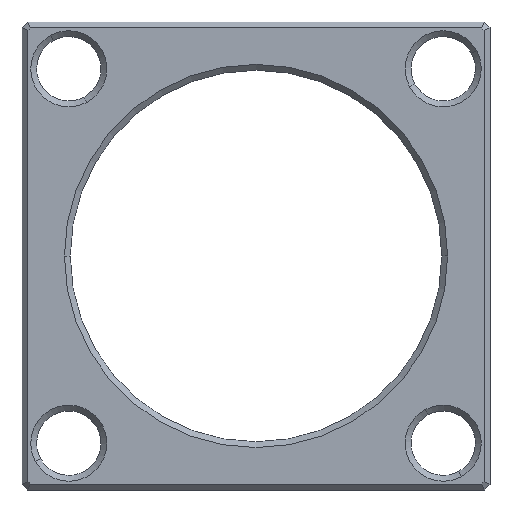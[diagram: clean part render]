
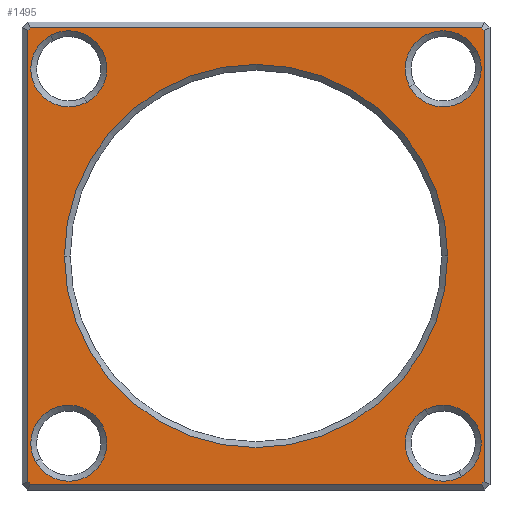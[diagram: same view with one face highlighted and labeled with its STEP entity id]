
A CAD part, front view. The second image highlights one B-rep face of the part: STEP entity #1495.
In plain terms, the highlighted planar face has unit normal (0, -1, 0).
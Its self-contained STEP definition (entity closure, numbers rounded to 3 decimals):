
#838=CARTESIAN_POINT('Vertex',(-38.586,0.,-39.)) ;
#841=CARTESIAN_POINT('Line Origine',(-38.793,0.,-38.793)) ;
#845=CARTESIAN_POINT('Vertex',(-39.,0.,-38.586)) ;
#864=CARTESIAN_POINT('Line Origine',(-39.,0.,0.)) ;
#868=CARTESIAN_POINT('Vertex',(-39.,0.,38.586)) ;
#887=CARTESIAN_POINT('Line Origine',(-38.793,0.,38.793)) ;
#891=CARTESIAN_POINT('Vertex',(-38.586,0.,39.)) ;
#910=CARTESIAN_POINT('Line Origine',(0.,0.,39.)) ;
#914=CARTESIAN_POINT('Vertex',(38.586,0.,39.)) ;
#933=CARTESIAN_POINT('Line Origine',(38.793,0.,38.793)) ;
#937=CARTESIAN_POINT('Vertex',(39.,0.,38.586)) ;
#956=CARTESIAN_POINT('Line Origine',(39.,0.,0.)) ;
#960=CARTESIAN_POINT('Vertex',(39.,0.,-38.586)) ;
#979=CARTESIAN_POINT('Line Origine',(38.793,0.,-38.793)) ;
#983=CARTESIAN_POINT('Vertex',(38.586,0.,-39.)) ;
#1002=CARTESIAN_POINT('Line Origine',(0.,0.,-39.)) ;
#1071=CARTESIAN_POINT('Vertex',(26.296,0.,28.884)) ;
#1078=CARTESIAN_POINT('Vertex',(37.704,0.,35.116)) ;
#1081=CARTESIAN_POINT('Axis2P3D Location',(32.,0.,32.)) ;
#1098=CARTESIAN_POINT('Axis2P3D Location',(32.,0.,32.)) ;
#1167=CARTESIAN_POINT('Vertex',(32.75,0.,0.)) ;
#1174=CARTESIAN_POINT('Vertex',(-32.75,0.,0.)) ;
#1177=CARTESIAN_POINT('Axis2P3D Location',(0.,0.,0.)) ;
#1194=CARTESIAN_POINT('Axis2P3D Location',(0.,0.,0.)) ;
#1263=CARTESIAN_POINT('Vertex',(35.116,0.,-37.704)) ;
#1270=CARTESIAN_POINT('Vertex',(28.884,0.,-26.296)) ;
#1273=CARTESIAN_POINT('Axis2P3D Location',(32.,0.,-32.)) ;
#1290=CARTESIAN_POINT('Axis2P3D Location',(32.,0.,-32.)) ;
#1359=CARTESIAN_POINT('Vertex',(-37.704,0.,-35.116)) ;
#1366=CARTESIAN_POINT('Vertex',(-26.296,0.,-28.884)) ;
#1369=CARTESIAN_POINT('Axis2P3D Location',(-32.,0.,-32.)) ;
#1386=CARTESIAN_POINT('Axis2P3D Location',(-32.,0.,-32.)) ;
#1446=CARTESIAN_POINT('Axis2P3D Location',(0.,0.,0.)) ;
#1461=CARTESIAN_POINT('Axis2P3D Location',(-32.,0.,32.)) ;
#1465=CARTESIAN_POINT('Vertex',(-35.116,0.,37.704)) ;
#1467=CARTESIAN_POINT('Vertex',(-28.884,0.,26.296)) ;
#1470=CARTESIAN_POINT('Axis2P3D Location',(-32.,0.,32.)) ;
#842=DIRECTION('Vector Direction',(0.707,0.,-0.707)) ;
#865=DIRECTION('Vector Direction',(0.,0.,-1.)) ;
#888=DIRECTION('Vector Direction',(-0.707,0.,-0.707)) ;
#911=DIRECTION('Vector Direction',(-1.,0.,0.)) ;
#934=DIRECTION('Vector Direction',(-0.707,0.,0.707)) ;
#957=DIRECTION('Vector Direction',(0.,0.,1.)) ;
#980=DIRECTION('Vector Direction',(0.707,0.,0.707)) ;
#1003=DIRECTION('Vector Direction',(1.,0.,0.)) ;
#1082=DIRECTION('Axis2P3D Direction',(0.,1.,0.)) ;
#1099=DIRECTION('Axis2P3D Direction',(0.,1.,0.)) ;
#1178=DIRECTION('Axis2P3D Direction',(0.,1.,0.)) ;
#1195=DIRECTION('Axis2P3D Direction',(0.,1.,0.)) ;
#1274=DIRECTION('Axis2P3D Direction',(0.,1.,0.)) ;
#1291=DIRECTION('Axis2P3D Direction',(0.,1.,0.)) ;
#1370=DIRECTION('Axis2P3D Direction',(0.,1.,0.)) ;
#1387=DIRECTION('Axis2P3D Direction',(0.,1.,0.)) ;
#1447=DIRECTION('Axis2P3D Direction',(0.,1.,0.)) ;
#1448=DIRECTION('Axis2P3D XDirection',(-1.,0.,0.)) ;
#1462=DIRECTION('Axis2P3D Direction',(0.,1.,0.)) ;
#1471=DIRECTION('Axis2P3D Direction',(0.,1.,0.)) ;
#1083=AXIS2_PLACEMENT_3D('Circle Axis2P3D',#1081,#1082,$) ;
#1100=AXIS2_PLACEMENT_3D('Circle Axis2P3D',#1098,#1099,$) ;
#1179=AXIS2_PLACEMENT_3D('Circle Axis2P3D',#1177,#1178,$) ;
#1196=AXIS2_PLACEMENT_3D('Circle Axis2P3D',#1194,#1195,$) ;
#1275=AXIS2_PLACEMENT_3D('Circle Axis2P3D',#1273,#1274,$) ;
#1292=AXIS2_PLACEMENT_3D('Circle Axis2P3D',#1290,#1291,$) ;
#1371=AXIS2_PLACEMENT_3D('Circle Axis2P3D',#1369,#1370,$) ;
#1388=AXIS2_PLACEMENT_3D('Circle Axis2P3D',#1386,#1387,$) ;
#1449=AXIS2_PLACEMENT_3D('Plane Axis2P3D',#1446,#1447,#1448) ;
#1463=AXIS2_PLACEMENT_3D('Circle Axis2P3D',#1461,#1462,$) ;
#1472=AXIS2_PLACEMENT_3D('Circle Axis2P3D',#1470,#1471,$) ;
#1452=ORIENTED_EDGE('',*,*,#847,.F.) ;
#1453=ORIENTED_EDGE('',*,*,#1006,.F.) ;
#1454=ORIENTED_EDGE('',*,*,#985,.F.) ;
#1455=ORIENTED_EDGE('',*,*,#962,.F.) ;
#1456=ORIENTED_EDGE('',*,*,#939,.F.) ;
#1457=ORIENTED_EDGE('',*,*,#916,.F.) ;
#1458=ORIENTED_EDGE('',*,*,#893,.F.) ;
#1459=ORIENTED_EDGE('',*,*,#870,.F.) ;
#1476=ORIENTED_EDGE('',*,*,#1469,.T.) ;
#1477=ORIENTED_EDGE('',*,*,#1474,.T.) ;
#1480=ORIENTED_EDGE('',*,*,#1373,.T.) ;
#1481=ORIENTED_EDGE('',*,*,#1390,.T.) ;
#1484=ORIENTED_EDGE('',*,*,#1277,.T.) ;
#1485=ORIENTED_EDGE('',*,*,#1294,.T.) ;
#1488=ORIENTED_EDGE('',*,*,#1181,.T.) ;
#1489=ORIENTED_EDGE('',*,*,#1198,.T.) ;
#1492=ORIENTED_EDGE('',*,*,#1085,.T.) ;
#1493=ORIENTED_EDGE('',*,*,#1102,.T.) ;
#1478=FACE_BOUND('',#1475,.T.) ;
#1482=FACE_BOUND('',#1479,.T.) ;
#1486=FACE_BOUND('',#1483,.T.) ;
#1490=FACE_BOUND('',#1487,.T.) ;
#1494=FACE_BOUND('',#1491,.T.) ;
#843=VECTOR('Line Direction',#842,1.) ;
#866=VECTOR('Line Direction',#865,1.) ;
#889=VECTOR('Line Direction',#888,1.) ;
#912=VECTOR('Line Direction',#911,1.) ;
#935=VECTOR('Line Direction',#934,1.) ;
#958=VECTOR('Line Direction',#957,1.) ;
#981=VECTOR('Line Direction',#980,1.) ;
#1004=VECTOR('Line Direction',#1003,1.) ;
#1495=ADVANCED_FACE('',(#1460,#1478,#1482,#1486,#1490,#1494),#1450,.F.) ;
#1084=CIRCLE('generated circle',#1083,6.5) ;
#1101=CIRCLE('generated circle',#1100,6.5) ;
#1180=CIRCLE('generated circle',#1179,32.75) ;
#1197=CIRCLE('generated circle',#1196,32.75) ;
#1276=CIRCLE('generated circle',#1275,6.5) ;
#1293=CIRCLE('generated circle',#1292,6.5) ;
#1372=CIRCLE('generated circle',#1371,6.5) ;
#1389=CIRCLE('generated circle',#1388,6.5) ;
#1464=CIRCLE('generated circle',#1463,6.5) ;
#1473=CIRCLE('generated circle',#1472,6.5) ;
#847=EDGE_CURVE('',#839,#846,#844,.F.) ;
#870=EDGE_CURVE('',#846,#869,#867,.F.) ;
#893=EDGE_CURVE('',#869,#892,#890,.F.) ;
#916=EDGE_CURVE('',#892,#915,#913,.F.) ;
#939=EDGE_CURVE('',#915,#938,#936,.F.) ;
#962=EDGE_CURVE('',#938,#961,#959,.F.) ;
#985=EDGE_CURVE('',#961,#984,#982,.F.) ;
#1006=EDGE_CURVE('',#984,#839,#1005,.F.) ;
#1085=EDGE_CURVE('',#1072,#1079,#1084,.T.) ;
#1102=EDGE_CURVE('',#1079,#1072,#1101,.T.) ;
#1181=EDGE_CURVE('',#1168,#1175,#1180,.T.) ;
#1198=EDGE_CURVE('',#1175,#1168,#1197,.T.) ;
#1277=EDGE_CURVE('',#1264,#1271,#1276,.T.) ;
#1294=EDGE_CURVE('',#1271,#1264,#1293,.T.) ;
#1373=EDGE_CURVE('',#1360,#1367,#1372,.T.) ;
#1390=EDGE_CURVE('',#1367,#1360,#1389,.T.) ;
#1469=EDGE_CURVE('',#1466,#1468,#1464,.T.) ;
#1474=EDGE_CURVE('',#1468,#1466,#1473,.T.) ;
#1451=EDGE_LOOP('',(#1452,#1453,#1454,#1455,#1456,#1457,#1458,#1459)) ;
#1475=EDGE_LOOP('',(#1476,#1477)) ;
#1479=EDGE_LOOP('',(#1480,#1481)) ;
#1483=EDGE_LOOP('',(#1484,#1485)) ;
#1487=EDGE_LOOP('',(#1488,#1489)) ;
#1491=EDGE_LOOP('',(#1492,#1493)) ;
#1460=FACE_OUTER_BOUND('',#1451,.T.) ;
#844=LINE('Line',#841,#843) ;
#867=LINE('Line',#864,#866) ;
#890=LINE('Line',#887,#889) ;
#913=LINE('Line',#910,#912) ;
#936=LINE('Line',#933,#935) ;
#959=LINE('Line',#956,#958) ;
#982=LINE('Line',#979,#981) ;
#1005=LINE('Line',#1002,#1004) ;
#1450=PLANE('Plane',#1449) ;
#839=VERTEX_POINT('',#838) ;
#846=VERTEX_POINT('',#845) ;
#869=VERTEX_POINT('',#868) ;
#892=VERTEX_POINT('',#891) ;
#915=VERTEX_POINT('',#914) ;
#938=VERTEX_POINT('',#937) ;
#961=VERTEX_POINT('',#960) ;
#984=VERTEX_POINT('',#983) ;
#1072=VERTEX_POINT('',#1071) ;
#1079=VERTEX_POINT('',#1078) ;
#1168=VERTEX_POINT('',#1167) ;
#1175=VERTEX_POINT('',#1174) ;
#1264=VERTEX_POINT('',#1263) ;
#1271=VERTEX_POINT('',#1270) ;
#1360=VERTEX_POINT('',#1359) ;
#1367=VERTEX_POINT('',#1366) ;
#1466=VERTEX_POINT('',#1465) ;
#1468=VERTEX_POINT('',#1467) ;
